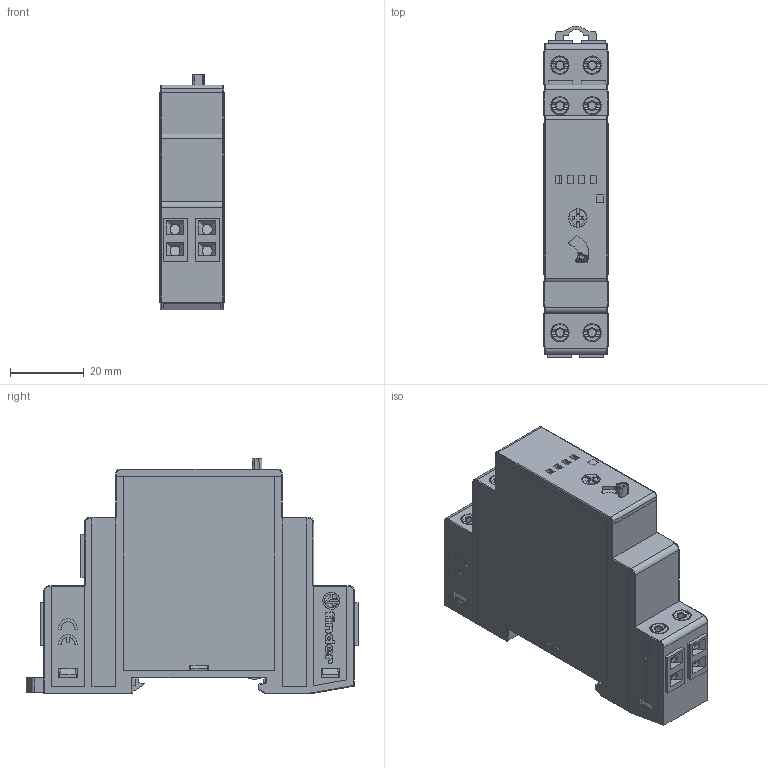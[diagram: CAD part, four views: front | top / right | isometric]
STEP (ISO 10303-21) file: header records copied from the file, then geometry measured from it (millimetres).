
FILE_DESCRIPTION(/* description */ ('Unknown'),/* implementation_level */ '2;1');
FILE_NAME(/* name */ '1471 push-in',/* time_stamp */ '2017-07-11T13:49:43+02:00',/* author */ ('Unknown'),/* organization */ ('Unknown'),/* preprocessor_version */ 'ST-DEVELOPER v16.7',/* originating_system */ 'DEX',/* authorisation */ $);
FILE_SCHEMA (('AUTOMOTIVE_DESIGN {1 0 10303 214 3 1 1}'));
Length unit declared in the file: millimetre
Products named in the file (1): Complessivo 14_71 push-in
Bounding box: 17.51 x 89.85 x 63.8 mm (x, y, z)
Surface area: 17510.5 mm2 (no closed solid volume)
Topology: 0 solids, 36 shells, 916 faces, 2815 edges, 1955 vertices
Faces by surface type: plane 556, cylinder 178, bspline 138, torus 32, cone 12
Full cylindrical faces by diameter (mm): 2.2 x6, 2.7 x12, 3 x2, 5 x7
Entity records: 33118 total; most frequent: CARTESIAN_POINT 8783, ORIENTED_EDGE 4875, DIRECTION 4631, EDGE_CURVE 2752, VERTEX_POINT 1930, LINE 1819, VECTOR 1819, AXIS2_PLACEMENT_3D 1406
